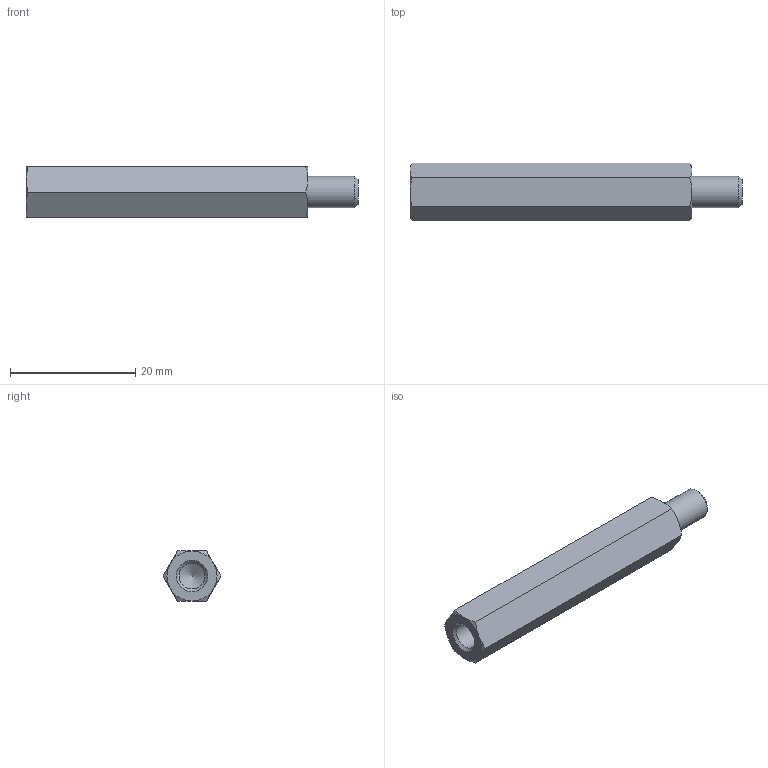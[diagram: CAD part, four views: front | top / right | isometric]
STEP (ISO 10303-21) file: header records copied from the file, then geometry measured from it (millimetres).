
FILE_DESCRIPTION( ( 'STEP AP203' ), '1' );
FILE_NAME( 'C:/Temp/Ganter_Step_05_03_2020/data/3_2/gn6220/gn6220_st/Spacer GN 6220-ST-M5-45-B.stp', '2020-03-13T05:42:45', ( 'License CC BY-ND 4.0' ), ( 'CADENAS' ), ' ', 'PARTsolutions', ' ' );
FILE_SCHEMA( ( 'CONFIG_CONTROL_DESIGN' ) );
Length unit declared in the file: millimetre
Products named in the file (1): _Spacer GN 6220-ST-M5-45-B
Bounding box: 53 x 9.24 x 8 mm (x, y, z)
Volume: 2450.9 mm3; surface area: 1657.2 mm2
Topology: 1 solids, 1 shells, 26 faces, 55 edges, 32 vertices
Faces by surface type: cone 15, plane 9, cylinder 2
Full cylindrical faces by diameter (mm): 4.134 x1, 5 x1
Entity records: 746 total; most frequent: CARTESIAN_POINT 210, DIRECTION 96, ORIENTED_EDGE 96, EDGE_CURVE 48, AXIS2_PLACEMENT_3D 45, EDGE_LOOP 32, VERTEX_POINT 31, FACE_OUTER_BOUND 28
